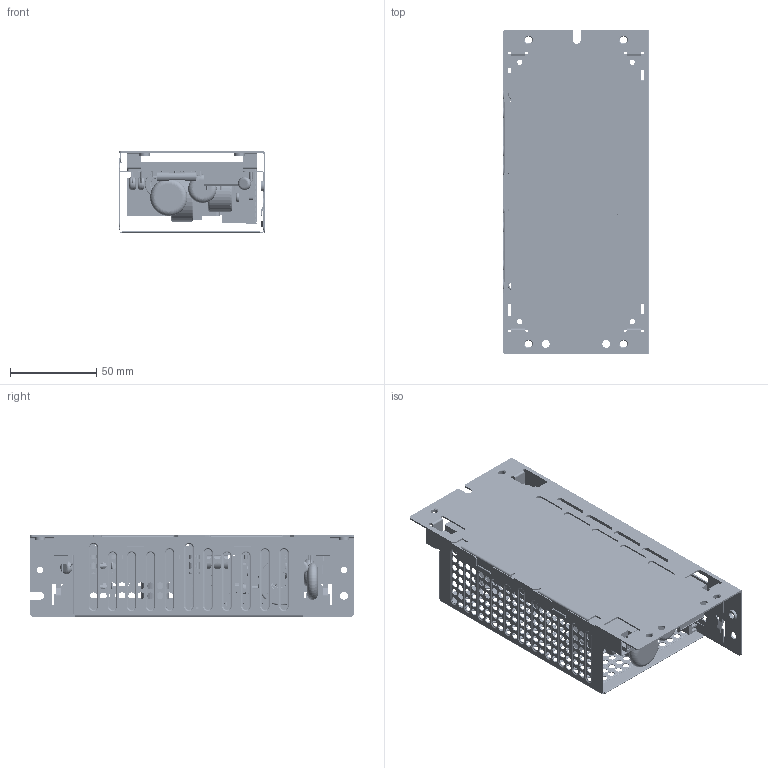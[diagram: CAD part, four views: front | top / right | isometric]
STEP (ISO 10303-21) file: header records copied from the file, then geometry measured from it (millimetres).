
FILE_DESCRIPTION((''),'2;1');
FILE_NAME('YIEK_ASM_ASM','2024-08-08T',('410022'),(''),'PRO/ENGINEER BY PARAMETRIC TECHNOLOGY CORPORATION, 2010280','PRO/ENGINEER BY PARAMETRIC TECHNOLOGY CORPORATION, 2010280','');
FILE_SCHEMA(('AUTOMOTIVE_DESIGN_CC2 { 1 2 10303 214 -1 1 5 2 }'));
Products named in the file (291): XIAG_AF0_22; SHANGG_AF0_31; YIEK_ASM_10_ASM; PRT0463; ASM0335_ASM_ASM; PRT0464; ASM0336_ASM_ASM; PRT0465; ASM0337_ASM_ASM; PRT0466; ASM0338_ASM_ASM; PRT0467; ASM0339_ASM_ASM; ASM0334_ASM_ASM; PRT0468; ASM0341_ASM_ASM; PRT0469; ASM0342_ASM_ASM; PRT0470; ASM0343_ASM_ASM; ASM0340_ASM_ASM; PRT0471; ASM0345_ASM_ASM; PRT0472; ASM0346_ASM_ASM; PRT0473; ASM0347_ASM_ASM; ASM0344_ASM_ASM; PRT0474; ASM0349_ASM_ASM; PRT0475; ASM0350_ASM_ASM; PRT0476; ASM0351_ASM_ASM; PRT0477; ASM0352_ASM_ASM; PRT0478; ASM0353_ASM_ASM; PRT0479; ASM0354_ASM_ASM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
Assembly tree (355 placements, depth 10):
  YIEK_ASM_ASM
    YIEK_ASM_10_ASM
      XIAG_AF0_22
      SHANGG_AF0_31
    150W_ASM
      CCCCCC_ASM_ASM
        ASM0332_ASM_ASM
          ASM0333_ASM_ASM
            ASM0334_ASM_ASM
              ASM0335_ASM_ASM
                PRT0463
              ASM0336_ASM_ASM
                PRT0464
              ASM0337_ASM_ASM  x2
                PRT0465
              ASM0338_ASM_ASM  x2
                PRT0466
              ASM0339_ASM_ASM  x2
                PRT0467
            ASM0340_ASM_ASM
              ASM0341_ASM_ASM
                PRT0468
              ASM0342_ASM_ASM
                PRT0469
              ASM0343_ASM_ASM  x2
                PRT0470
            ASM0344_ASM_ASM
              ASM0345_ASM_ASM
                PRT0471
              ASM0346_ASM_ASM
                PRT0472
              ASM0347_ASM_ASM  x3
                PRT0473
            ASM0348_ASM_ASM
              ASM0349_ASM_ASM
                PRT0474
              ASM0350_ASM_ASM
                PRT0475
              ASM0351_ASM_ASM
                PRT0476
              ASM0352_ASM_ASM
                PRT0477
              ASM0353_ASM_ASM
                PRT0478
              ASM0354_ASM_ASM
                PRT0479
              ASM0355_ASM_ASM
                PRT0480
              ASM0356_ASM_ASM
                PRT0481
            ASM0357_ASM_ASM
              ASM0358_ASM_ASM
                PRT0482
              ASM0359_ASM_ASM  x2
                PRT0483
            ASM0360_ASM_ASM
              PRT0484
            ASM0361_ASM_ASM
              PRT0485  x2
              PRT0486  x2
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Bounding box: 85 x 188 x 47 mm (x, y, z)
Volume: 177828.6 mm3; surface area: 187372.8 mm2
Topology: 170 solids, 211 shells, 3383 faces, 9514 edges, 6364 vertices
Faces by surface type: cylinder 1635, plane 1428, torus 262, revolution 24, cone 18, sphere 16
Entity records: 140011 total; most frequent: CARTESIAN_POINT 22913, DIRECTION 19973, ORIENTED_EDGE 17404, EDGE_CURVE 8740, PRESENTATION_STYLE_ASSIGNMENT 8450, STYLED_ITEM 8448, CURVE_STYLE 8328, AXIS2_PLACEMENT_3D 7866
